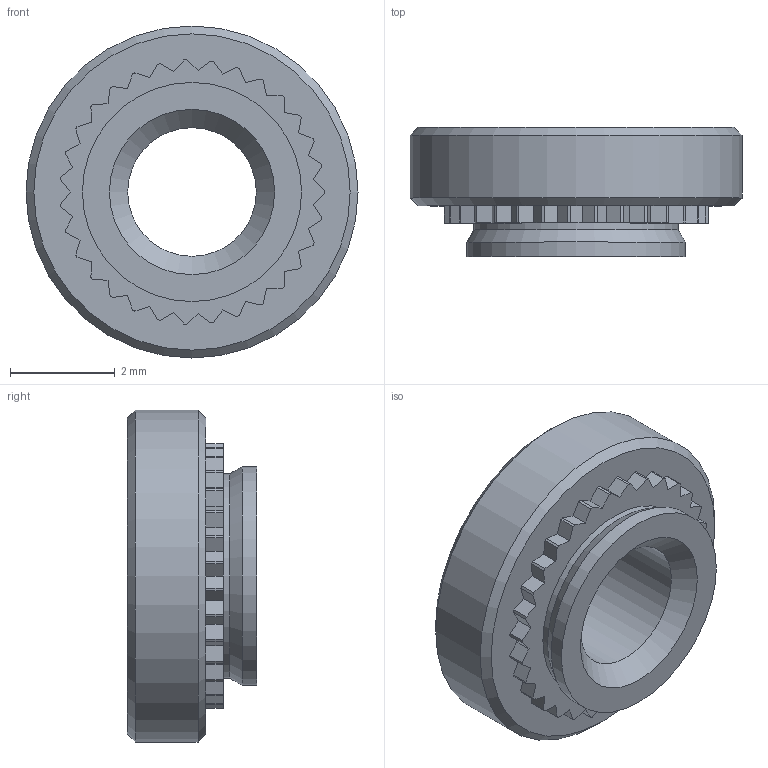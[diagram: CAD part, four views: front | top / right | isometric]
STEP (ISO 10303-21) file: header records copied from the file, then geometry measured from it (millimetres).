
FILE_DESCRIPTION(/* description */ (''),/* implementation_level */ '2;1');
FILE_NAME(/* name */ 'C:\Users\keval.kumar\Desktop\Fastit\Clinch nut\M3\Clinch Nut_M3_1.stp',/* time_stamp */ '2024-03-14T09:31:29+05:00',/* author */ ('keval.kumar'),/* organization */ (''),/* preprocessor_version */ 'ST-DEVELOPER v18.1',/* originating_system */ 'Autodesk Inventor 2022',/* authorisation */ '');
FILE_SCHEMA (('AUTOMOTIVE_DESIGN { 1 0 10303 214 3 1 1 }'));
Length unit declared in the file: millimetre
Products named in the file (1): Clinch Nut_M3_1
Bounding box: 6.35 x 2.47 x 6.35 mm (x, y, z)
Volume: 48.8 mm3; surface area: 113.5 mm2
Topology: 1 solids, 1 shells, 106 faces, 303 edges, 201 vertices
Faces by surface type: plane 66, cylinder 35, cone 5
Full cylindrical faces by diameter (mm): 2.459 x1, 3.91 x1, 4.19 x1, 6.35 x1
Entity records: 3507 total; most frequent: CARTESIAN_POINT 611, ORIENTED_EDGE 606, DIRECTION 594, EDGE_CURVE 303, LINE 226, VECTOR 226, VERTEX_POINT 201, AXIS2_PLACEMENT_3D 184
